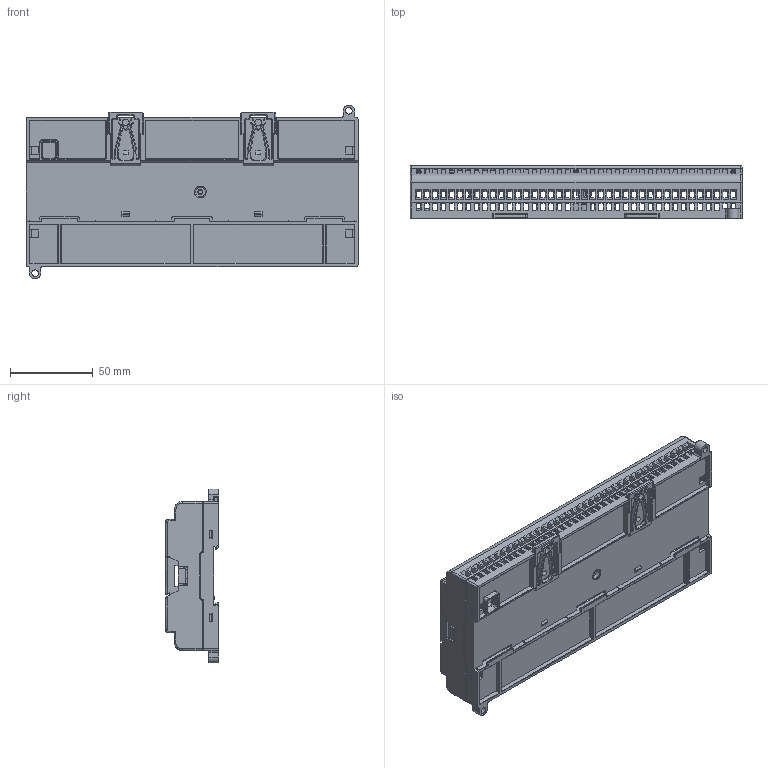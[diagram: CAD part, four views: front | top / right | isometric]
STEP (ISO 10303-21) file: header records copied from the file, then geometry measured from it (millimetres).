
FILE_DESCRIPTION(/* description */ (''),/* implementation_level */ '2;1');
FILE_NAME(/* name */ 'b1-60m-slim-20210609',/* time_stamp */ '2021-12-03T20:04:12+08:00',/* author */ (''),/* organization */ (''),/* preprocessor_version */ 'ST-DEVELOPER v16.5',/* originating_system */ '',/* authorisation */ '');
FILE_SCHEMA (('AUTOMOTIVE_DESIGN'));
Products named in the file (6): Document; B1-NEW-60M-UP_COVER; CV_PS; B1-NEW-60M-DOWN_COVER; JOIN; B1-60M-IO2_COVER
Assembly tree (6 placements, depth 2):
  Document
    B1-NEW-60M-UP_COVER
    CV_PS
    B1-NEW-60M-DOWN_COVER
    JOIN  x2
    B1-60M-IO2_COVER
Bounding box: 200.4 x 32.15 x 104.99 mm (x, y, z)
Volume: 106908.4 mm3; surface area: 137550.1 mm2
Topology: 6 solids, 6 shells, 3690 faces, 11436 edges, 7429 vertices
Faces by surface type: plane 2817, bspline 873
Entity records: 125870 total; most frequent: CARTESIAN_POINT 55070, ORIENTED_EDGE 22108, EDGE_CURVE 11054, B_SPLINE_CURVE_WITH_KNOTS 10023, VERTEX_POINT 7211, EDGE_LOOP 4167, ADVANCED_FACE 3525, FACE_OUTER_BOUND 3525
